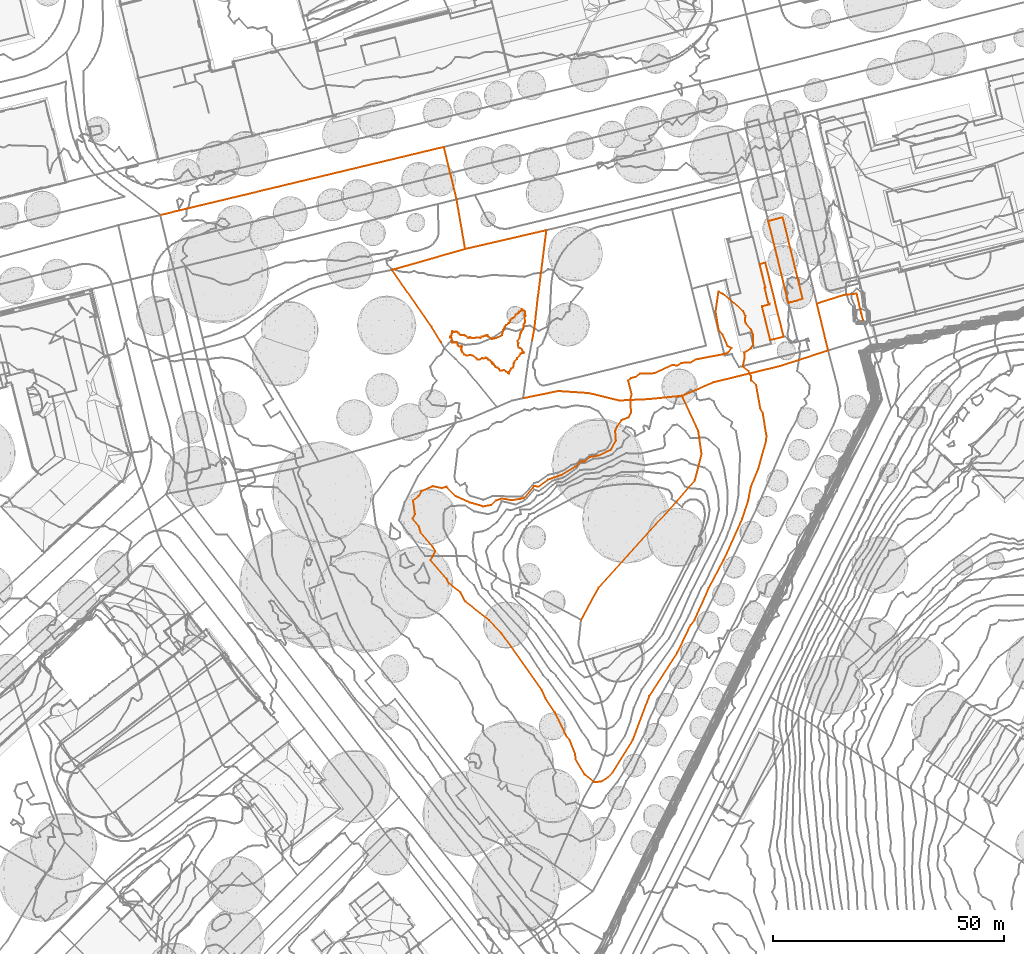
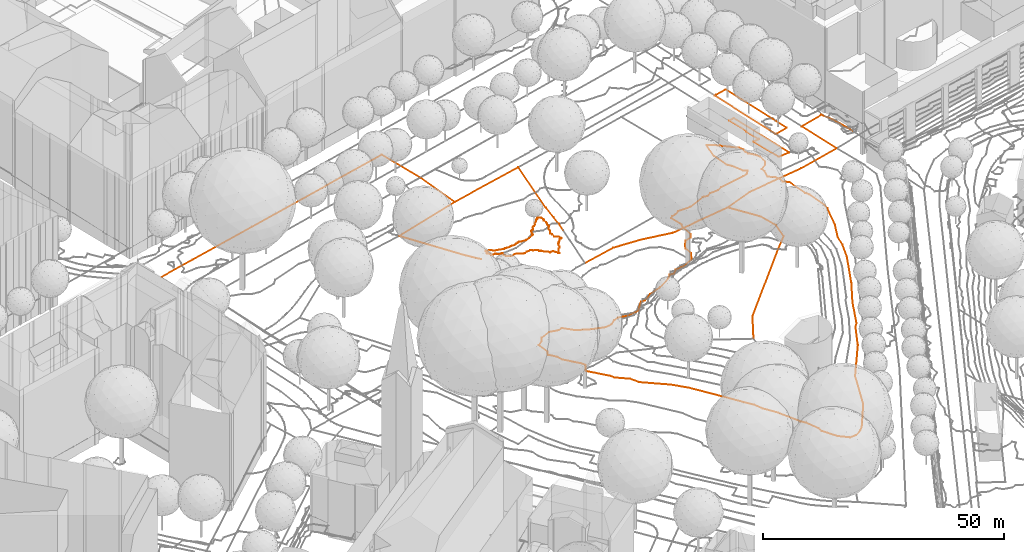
# Not in any storey, part 171 of 494: 16 proxies.
"""IFC2X3 model written with IfcOpenShell, lengths in metres."""

from ifc_helpers import new_model, entity, si_unit, frame, origin_with_axes, place, context, subcontext, project, element, save


model = new_model("IFC2X3")

# Units and contexts
model_context = context("Model", 3, precision=1e-05, world=origin_with_axes())
body_context = subcontext(model_context, "Body", "Model", "MODEL_VIEW")
ifc_project = project(units=[si_unit("AREAUNIT", "SQUARE_METRE"), si_unit("LENGTHUNIT", "METRE")], contexts=[model_context])

# Proxies
proxy_1_placement = place(None, frame((271.7527320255, 302.843733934, 541.668), z_axis=(0.0, 0.0, 1.0), x_axis=(1.0, 0.0, 0.0)))
element("IfcBuildingElementProxy", 1, at=proxy_1_placement, Name="Road 13", ObjectType="NOTDEFINED", context=body_context, shape_type="GeometricCurveSet", body=[
    entity("IfcGeometricCurveSet", [entity("IfcPolyline", [entity("IfcCartesianPoint", [0.0, 0.0, 0.0]), entity("IfcCartesianPoint", [6.9030000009, 2.9369999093, -0.275]), entity("IfcCartesianPoint", [21.2930000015, 6.4609997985, -1.472]), entity("IfcCartesianPoint", [31.7190000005, 9.8379996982, -2.107])])]),
])
proxy_2_placement = place(None, frame((301.0267320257, 322.8507333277, 539.803), z_axis=(0.0, 0.0, 1.0), x_axis=(1.0, 0.0, 0.0)))
element("IfcBuildingElementProxy", 2, at=proxy_2_placement, Name="Road 17", ObjectType="NOTDEFINED", context=body_context, shape_type="GeometricCurveSet", body=[
    entity("IfcGeometricCurveSet", [entity("IfcPolyline", [entity("IfcCartesianPoint", [10.0540000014, -3.7009998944, -2.405]), entity("IfcCartesianPoint", [9.6550000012, -2.3239999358, -2.347]), entity("IfcCartesianPoint", [8.6359999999, 2.1639999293, -2.601]), entity("IfcCartesianPoint", [5.7419999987, 1.8489999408, -0.211]), entity("IfcCartesianPoint", [0.0, 0.0, 0.0])])]),
])
proxy_3_placement = place(None, frame((158.6437320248, 342.0537327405, 539.79), z_axis=(0.0, 0.0, 1.0), x_axis=(1.0, 0.0, 0.0)))
element("IfcBuildingElementProxy", 3, at=proxy_3_placement, Name="Road 29", ObjectType="NOTDEFINED", context=body_context, shape_type="GeometricCurveSet", body=[
    entity("IfcGeometricCurveSet", [entity("IfcPolyline", [entity("IfcCartesianPoint", [0.0, 0.0, 0.0]), entity("IfcCartesianPoint", [8.9480000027, 2.1499999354, 0.08]), entity("IfcCartesianPoint", [25.4400000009, 6.1129998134, 0.228]), entity("IfcCartesianPoint", [61.4940000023, 14.7779995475, 0.553])])]),
])
proxy_4_placement = place(None, frame((220.1377320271, 356.831732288, 540.343), z_axis=(0.0, 0.0, 1.0), x_axis=(1.0, 0.0, 0.0)))
element("IfcBuildingElementProxy", 4, at=proxy_4_placement, Name="Road 57", ObjectType="NOTDEFINED", context=body_context, shape_type="GeometricCurveSet", body=[
    entity("IfcGeometricCurveSet", [entity("IfcPolyline", [entity("IfcCartesianPoint", [4.6009999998, -22.1469993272, -0.143]), entity("IfcCartesianPoint", [2.7309999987, -11.3609996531, 0.079]), entity("IfcCartesianPoint", [0.0, 0.0, 0.0])])]),
])
proxy_5_placement = place(None, frame((208.903732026, 330.1567331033, 539.903), z_axis=(0.0, 0.0, 1.0), x_axis=(1.0, 0.0, 0.0)))
element("IfcBuildingElementProxy", 5, at=proxy_5_placement, Name="Road 60", ObjectType="NOTDEFINED", context=body_context, shape_type="GeometricCurveSet", body=[
    entity("IfcGeometricCurveSet", [entity("IfcPolyline", [entity("IfcCartesianPoint", [15.8350000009, 4.5279998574, 0.297]), entity("IfcCartesianPoint", [0.0, 0.0, 0.0])])]),
])
proxy_6_placement = place(None, frame((237.3027320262, 302.311733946, 540.016), z_axis=(0.0, 0.0, 1.0), x_axis=(1.0, 0.0, 0.0)))
element("IfcBuildingElementProxy", 6, at=proxy_6_placement, Name="Road 62", ObjectType="NOTDEFINED", context=body_context, shape_type="GeometricCurveSet", body=[
    entity("IfcGeometricCurveSet", [entity("IfcPolyline", [entity("IfcCartesianPoint", [0.0, 0.0, 0.0]), entity("IfcCartesianPoint", [7.5780000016, 1.5599999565, 0.229]), entity("IfcCartesianPoint", [14.1860000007, 1.1189999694, 0.295]), entity("IfcCartesianPoint", [20.7939999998, -0.4959999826, 0.655]), entity("IfcCartesianPoint", [27.1079999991, -0.2019999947, 1.307]), entity("IfcCartesianPoint", [34.4499999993, 0.531999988, 1.652])])]),
])
proxy_7_placement = place(None, frame((224.7387320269, 334.6847329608, 540.2), z_axis=(0.0, 0.0, 1.0), x_axis=(1.0, 0.0, 0.0)))
element("IfcBuildingElementProxy", 7, at=proxy_7_placement, Name="Road 64", ObjectType="NOTDEFINED", context=body_context, shape_type="GeometricCurveSet", body=[
    entity("IfcGeometricCurveSet", [entity("IfcPolyline", [entity("IfcCartesianPoint", [17.6229999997, 4.0849998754, 0.132]), entity("IfcCartesianPoint", [0.0, 0.0, 0.0])])]),
])
proxy_8_placement = place(None, frame((240.0457320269, 320.1217334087, 539.845), z_axis=(0.0, 0.0, 1.0), x_axis=(1.0, 0.0, 0.0)))
element("IfcBuildingElementProxy", 8, at=proxy_8_placement, Name="Road 65", ObjectType="NOTDEFINED", context=body_context, shape_type="GeometricCurveSet", body=[
    entity("IfcGeometricCurveSet", [entity("IfcPolyline", [entity("IfcCartesianPoint", [0.0, 0.0, 0.0]), entity("IfcCartesianPoint", [0.4299999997, 3.8679998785, -0.142]), entity("IfcCartesianPoint", [2.3159999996, 18.6479994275, 0.487])])]),
])
proxy_9_placement = place(None, frame((301.0267320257, 322.8507333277, 539.803), z_axis=(0.0, 0.0, 1.0), x_axis=(1.0, 0.0, 0.0)))
element("IfcBuildingElementProxy", 9, at=proxy_9_placement, Name="Road 77", ObjectType="NOTDEFINED", context=body_context, shape_type="GeometricCurveSet", body=[
    entity("IfcGeometricCurveSet", [entity("IfcPolyline", [entity("IfcCartesianPoint", [0.0, 0.0, 0.0]), entity("IfcCartesianPoint", [2.4450000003, -10.1689996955, -0.242])])]),
])
proxy_10_placement = place(None, frame((208.903732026, 330.1567331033, 539.903), z_axis=(0.0, 0.0, 1.0), x_axis=(1.0, 0.0, 0.0)))
element("IfcBuildingElementProxy", 10, at=proxy_10_placement, Name="Road 101", ObjectType="NOTDEFINED", context=body_context, shape_type="GeometricCurveSet", body=[
    entity("IfcGeometricCurveSet", [entity("IfcPolyline", [entity("IfcCartesianPoint", [0.0, 0.0, 0.0]), entity("IfcCartesianPoint", [8.5170000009, -12.3349996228, -0.381]), entity("IfcCartesianPoint", [10.5700000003, -15.6589995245, -0.082])])]),
])
proxy_11_placement = place(None, frame((249.8727320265, 254.238735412, 545.582), z_axis=(0.0, 0.0, 1.0), x_axis=(1.0, 0.0, 0.0)))
element("IfcBuildingElementProxy", 11, at=proxy_11_placement, Name="Road 105", ObjectType="NOTDEFINED", context=body_context, shape_type="GeometricCurveSet", body=[
    entity("IfcGeometricCurveSet", [entity("IfcPolyline", [entity("IfcCartesianPoint", [0.0, 0.0, 0.0]), entity("IfcCartesianPoint", [3.8189999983, 7.0479997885, 0.132]), entity("IfcCartesianPoint", [20.7049999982, 25.6969992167, -0.144]), entity("IfcCartesianPoint", [24.6699999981, 30.2499990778, -1.047]), entity("IfcCartesianPoint", [26.1389999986, 35.9769989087, -2.265]), entity("IfcCartesianPoint", [25.4050000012, 41.1159987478, -2.9]), entity("IfcCartesianPoint", [21.879999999, 48.604998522, -3.914])])]),
])
proxy_12_placement = place(None, frame((239.2547320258, 314.7887335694, 540.096), z_axis=(0.0, 0.0, 1.0), x_axis=(1.0, 0.0, 0.0)))
element("IfcBuildingElementProxy", 12, at=proxy_12_placement, Name="Road 140", ObjectType="NOTDEFINED", context=body_context, shape_type="GeometricCurveSet", body=[
    entity("IfcGeometricCurveSet", [entity("IfcPolyline", [entity("IfcCartesianPoint", [0.0, 0.0, 0.0]), entity("IfcCartesianPoint", [0.4869999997, 2.5929999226, -0.151]), entity("IfcCartesianPoint", [0.7910000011, 5.3329998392, -0.251])])]),
])
proxy_13_placement = place(None, frame((221.4727320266, 315.5197160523, 539.9451337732), z_axis=(0.0, 0.0, 1.0), x_axis=(1.0, 0.0, 0.0)))
element("IfcBuildingElementProxy", 13, at=proxy_13_placement, Name="Roads Outline 65", ObjectType="NOTDEFINED", context=body_context, shape_type="GeometricCurveSet", body=[
    entity("IfcGeometricCurveSet", [entity("IfcPolyline", [entity("IfcCartesianPoint", [0.0, 0.0, 0.0]), entity("IfcCartesianPoint", [0.034, 0.1970000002, -0.032868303]), entity("IfcCartesianPoint", [0.2380000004, 0.2820000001, -0.0645356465]), entity("IfcCartesianPoint", [0.3230000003, 0.537, -0.1180079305]), entity("IfcCartesianPoint", [0.3740000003, 0.757, -0.1636740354]), entity("IfcCartesianPoint", [0.4590000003, 1.148, -0.2474366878]), entity("IfcCartesianPoint", [0.3910000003, 1.267, -0.255806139]), entity("IfcCartesianPoint", [0.5430000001, 1.334, -0.2913111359]), entity("IfcCartesianPoint", [0.747, 1.165, -0.2910893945]), entity("IfcCartesianPoint", [1.2350000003, 1.2180000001, -0.3659965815]), entity("IfcCartesianPoint", [1.358, 1.2320000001, -0.3843086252]), entity("IfcCartesianPoint", [1.5950000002, 1.1300000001, -0.4012720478]), entity("IfcCartesianPoint", [1.9010000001, 0.7820000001, -0.3715563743]), entity("IfcCartesianPoint", [2.3080000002, 0.544, -0.3727286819]), entity("IfcCartesianPoint", [2.8680000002, 0.5430000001, -0.4157295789]), entity("IfcCartesianPoint", [3.2749999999, 0.4240000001, -0.379114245]), entity("IfcCartesianPoint", [3.801, -0.068, -0.2208087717]), entity("IfcCartesianPoint", [4.0380000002, -0.1869999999, -0.1619115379]), entity("IfcCartesianPoint", [4.1570000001, -0.0009999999, -0.2052259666]), entity("IfcCartesianPoint", [4.3100000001, 0.0330000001, -0.1991757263]), entity("IfcCartesianPoint", [4.4790000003, -0.0859999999, -0.148985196]), entity("IfcCartesianPoint", [4.7170000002, -0.1709999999, -0.1047813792]), entity("IfcCartesianPoint", [5.3110000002, -0.1029999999, -0.1232165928]), entity("IfcCartesianPoint", [5.6329999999, -0.0009999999, -0.1478464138]), entity("IfcCartesianPoint", [5.9890000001, -0.0019999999, -0.1287256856]), entity("IfcCartesianPoint", [6.5660000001, -0.1379999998, -0.0546973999]), entity("IfcCartesianPoint", [6.872, 0.1170000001, -0.0972614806]), entity("IfcCartesianPoint", [7.0920000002, 0.1330000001, -0.0808258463]), entity("IfcCartesianPoint", [7.466, 0.3030000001, -0.1070623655]), entity("IfcCartesianPoint", [7.5560000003, 0.3930000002, -0.1312746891]), entity("IfcCartesianPoint", [7.7600000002, 0.3830000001, -0.1030834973]), entity("IfcCartesianPoint", [7.9939999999, 0.4940000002, -0.1030735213]), entity("IfcCartesianPoint", [8.1060000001, 0.4430000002, -0.0647691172]), entity("IfcCartesianPoint", [8.1570000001, 0.321, -0.0104298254]), entity("IfcCartesianPoint", [8.2790000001, 0.1680000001, 0.0685322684]), entity("IfcCartesianPoint", [8.8800000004, -0.2799999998, 0.3100159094]), entity("IfcCartesianPoint", [9.1150000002, -0.352, 0.3639315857]), entity("IfcCartesianPoint", [9.3280000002, -0.311, 0.3900332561]), entity("IfcCartesianPoint", [9.9790000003, -0.108, 0.4792357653]), entity("IfcCartesianPoint", [11.3130000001, 0.4720000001, 0.5130965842]), entity("IfcCartesianPoint", [11.3130000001, 0.594, 0.4791731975]), entity("IfcCartesianPoint", [11.3430000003, 0.9200000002, 0.3918183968]), entity("IfcCartesianPoint", [11.4350000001, 1.1540000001, 0.3403779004]), entity("IfcCartesianPoint", [11.5270000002, 1.5720000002, 0.2519339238]), entity("IfcCartesianPoint", [11.71, 1.8260000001, 0.2290435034]), entity("IfcCartesianPoint", [11.8420000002, 2.1780000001, 0.1361270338]), entity("IfcCartesianPoint", [11.8829999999, 2.361, 0.0633937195]), entity("IfcCartesianPoint", [12.1680000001, 2.6160000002, -0.0603835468]), entity("IfcCartesianPoint", [12.5350000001, 3.013, -0.2530746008]), entity("IfcCartesianPoint", [12.7690000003, 3.084, -0.2956663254]), entity("IfcCartesianPoint", [12.9720000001, 3.3080000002, -0.3198870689]), entity("IfcCartesianPoint", [13.085, 3.7350000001, -0.3456882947]), entity("IfcCartesianPoint", [13.3080000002, 4.0310000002, -0.3444187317]), entity("IfcCartesianPoint", [13.6550000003, 4.1530000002, -0.3113091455]), entity("IfcCartesianPoint", [13.98, 4.3770000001, -0.2647283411]), entity("IfcCartesianPoint", [14.2550000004, 4.9370000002, -0.2264956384]), entity("IfcCartesianPoint", [14.673, 5.1400000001, -0.1753261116]), entity("IfcCartesianPoint", [14.8149999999, 5.3130000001, -0.1567959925]), entity("IfcCartesianPoint", [14.9960000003, 5.534, -0.1311807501]), entity("IfcCartesianPoint", [15.0220000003, 5.581, -0.1267432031]), entity("IfcCartesianPoint", [15.0390000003, 5.588, -0.1246061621]), entity("IfcCartesianPoint", [15.1000000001, 5.6130000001, -0.116869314]), entity("IfcCartesianPoint", [15.4870000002, 5.7710000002, -0.0651701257]), entity("IfcCartesianPoint", [15.4569999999, 5.8830000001, -0.0631470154]), entity("IfcCartesianPoint", [15.4870000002, 6.1170000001, -0.0475360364]), entity("IfcCartesianPoint", [15.5890000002, 6.0560000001, -0.0374588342]), entity("IfcCartesianPoint", [15.7560000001, 5.868, -0.0348617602]), entity("IfcCartesianPoint", [16.037, 5.7660000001, -0.0456951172]), entity("IfcCartesianPoint", [16.2200000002, 5.6330000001, -0.0522447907]), entity("IfcCartesianPoint", [16.2200000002, 5.409, -0.0576143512]), entity("IfcCartesianPoint", [16.3020000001, 5.0720000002, -0.0593004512]), entity("IfcCartesianPoint", [16.3630000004, 4.7560000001, -0.0485248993]), entity("IfcCartesianPoint", [16.253, 4.6360000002, -0.0453179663]), entity("IfcCartesianPoint", [16.139, 4.5120000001, -0.0409356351]), entity("IfcCartesianPoint", [16.25, 3.6660000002, 0.0045509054]), entity("IfcCartesianPoint", [16.2200000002, 3.3460000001, 0.0263024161]), entity("IfcCartesianPoint", [16.199, 3.132, 0.0409352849]), entity("IfcCartesianPoint", [15.9550000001, 2.7960000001, 0.0661226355]), entity("IfcCartesianPoint", [16.0060000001, 2.2960000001, 0.1080188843]), entity("IfcCartesianPoint", [15.9920000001, 2.1200000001, 0.1243075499]), entity("IfcCartesianPoint", [15.9850000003, 2.0320000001, 0.1375517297]), entity("IfcCartesianPoint", [15.4360000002, 1.1310000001, 0.2780235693]), entity("IfcCartesianPoint", [15.395, 1.0650000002, 0.282978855]), entity("IfcCartesianPoint", [15.2420000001, 0.953, 0.2893640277]), entity("IfcCartesianPoint", [15.1810000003, 0.3930000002, 0.3507606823]), entity("IfcCartesianPoint", [15.0649999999, -0.0089999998, 0.3844598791]), entity("IfcCartesianPoint", [15.0290000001, -0.1359999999, 0.3901935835]), entity("IfcCartesianPoint", [14.6010000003, -0.8439999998, 0.4800365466]), entity("IfcCartesianPoint", [14.8770000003, -1.2609999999, 0.4577541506]), entity("IfcCartesianPoint", [14.7650000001, -1.3319999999, 0.4798780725]), entity("IfcCartesianPoint", [14.8160000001, -2.2279999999, 0.4669274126]), entity("IfcCartesianPoint", [15.1830000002, -2.3499999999, 0.4055788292]), entity("IfcCartesianPoint", [15.6310000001, -2.645, 0.3423323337]), entity("IfcCartesianPoint", [15.7430000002, -2.9399999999, 0.3348084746]), entity("IfcCartesianPoint", [16.0079999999, -3.2859999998, 0.3362841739]), entity("IfcCartesianPoint", [15.824, -3.3979999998, 0.3331442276]), entity("IfcCartesianPoint", [15.6410000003, -3.419, 0.3382346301]), entity("IfcCartesianPoint", [15.3149999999, -3.561, 0.3762349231]), entity("IfcCartesianPoint", [15.0419999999, -3.9339999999, 0.4194563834]), entity("IfcCartesianPoint", [14.4909999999, -4.5109999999, 0.5651845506]), entity("IfcCartesianPoint", [14.497, -4.6819999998, 0.5749290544]), entity("IfcCartesianPoint", [13.9470000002, -5.2309999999, 0.7326937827]), entity("IfcCartesianPoint", [13.8620000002, -5.5799999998, 0.7676782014]), entity("IfcCartesianPoint", [13.7760000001, -5.7379999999, 0.7969798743]), entity("IfcCartesianPoint", [13.807, -6.2209999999, 0.7255946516]), entity("IfcCartesianPoint", [13.6540000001, -6.541, 0.6988296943]), entity("IfcCartesianPoint", [13.2579999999, -6.7649999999, 0.6825437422]), entity("IfcCartesianPoint", [13.0130000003, -7.2379999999, 0.5730481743]), entity("IfcCartesianPoint", [12.7960000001, -7.4939999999, 0.517055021]), entity("IfcCartesianPoint", [12.8149999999, -7.831, 0.4238744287]), entity("IfcCartesianPoint", [12.5390000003, -7.76, 0.4717449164]), entity("IfcCartesianPoint", [12.1490000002, -7.4039999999, 0.6355796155]), entity("IfcCartesianPoint", [11.6740000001, -7.115, 0.8135387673]), entity("IfcCartesianPoint", [11.3000000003, -7.149, 0.836870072]), entity("IfcCartesianPoint", [10.8760000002, -7.2509999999, 0.855674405]), entity("IfcCartesianPoint", [10.6040000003, -6.8609999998, 0.9436707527]), entity("IfcCartesianPoint", [10.2480000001, -6.5899999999, 0.9341286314]), entity("IfcCartesianPoint", [9.8910000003, -6.4709999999, 0.9284314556]), entity("IfcCartesianPoint", [9.7560000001, -6.183, 0.9204479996]), entity("IfcCartesianPoint", [9.5690000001, -5.9109999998, 0.9130241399]), entity("IfcCartesianPoint", [9.3480000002, -5.8439999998, 0.9102385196]), entity("IfcCartesianPoint", [9.1440000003, -5.6569999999, 0.8955964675]), entity("IfcCartesianPoint", [9.1950000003, -5.4199999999, 0.8781022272]), entity("IfcCartesianPoint", [8.9240000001, -5.25, 0.8662569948]), entity("IfcCartesianPoint", [8.5160000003, -4.9779999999, 0.8487993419]), entity("IfcCartesianPoint", [8.1940000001, -4.8419999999, 0.8348933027]), entity("IfcCartesianPoint", [8.1430000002, -4.5789999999, 0.8100408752]), entity("IfcCartesianPoint", [7.736, -4.426, 0.7922193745]), entity("IfcCartesianPoint", [7.2949999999, -4.6129999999, 0.8100888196]), entity("IfcCartesianPoint", [6.8880000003, -4.4939999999, 0.799089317]), entity("IfcCartesianPoint", [6.3620000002, -4.7649999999, 0.8215538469]), entity("IfcCartesianPoint", [5.9380000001, -4.781, 0.8177898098]), entity("IfcCartesianPoint", [5.7000000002, -4.5599999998, 0.7970141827]), entity("IfcCartesianPoint", [4.8859999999, -3.9479999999, 0.6999935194]), entity("IfcCartesianPoint", [4.3260000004, -3.8459999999, 0.6413580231]), entity("IfcCartesianPoint", [3.5789999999, -3.9469999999, 0.52139075]), entity("IfcCartesianPoint", [3.0870000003, -3.7259999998, 0.4582847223]), entity("IfcCartesianPoint", [2.6770000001, -3.338, 0.4396057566]), entity("IfcCartesianPoint", [2.6130000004, -3.132, 0.4560702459]), entity("IfcCartesianPoint", [2.4510000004, -2.7799999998, 0.4453376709]), entity("IfcCartesianPoint", [2.409, -2.6899999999, 0.4232399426]), entity("IfcCartesianPoint", [2.477, -2.2319999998, 0.3595035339]), entity("IfcCartesianPoint", [2.6470000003, -2.0279999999, 0.3299549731]), entity("IfcCartesianPoint", [2.4939999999, -1.858, 0.2970497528]), entity("IfcCartesianPoint", [2.2560000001, -1.96, 0.312134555]), entity("IfcCartesianPoint", [2.0360000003, -2.0109999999, 0.3131584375]), entity("IfcCartesianPoint", [1.6800000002, -1.8069999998, 0.2961074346]), entity("IfcCartesianPoint", [1.5950000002, -1.5179999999, 0.2172752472]), entity("IfcCartesianPoint", [1.5440000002, -1.179, 0.1313771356]), entity("IfcCartesianPoint", [1.3570000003, -1.0599999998, 0.1155818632]), entity("IfcCartesianPoint", [0.798, -1.1609999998, 0.1732617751]), entity("IfcCartesianPoint", [0.3900000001, -1.1779999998, 0.1654008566]), entity("IfcCartesianPoint", [0.3900000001, -1.095, 0.1574758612]), entity("IfcCartesianPoint", [0.3900000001, -1.0079999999, 0.1491689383]), entity("IfcCartesianPoint", [0.4240000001, -0.5839999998, 0.0839703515]), entity("IfcCartesianPoint", [0.3060000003, -0.176, 0.0117546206]), entity("IfcCartesianPoint", [0.0, 0.0, 0.0])])]),
])
proxy_14_placement = place(None, frame((288.5997320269, 331.4027160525, 540.4457476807), z_axis=(0.0, 0.0, 1.0), x_axis=(1.0, 0.0, 0.0)))
element("IfcBuildingElementProxy", 14, at=proxy_14_placement, Name="Roads Outline 66", ObjectType="NOTDEFINED", context=body_context, shape_type="GeometricCurveSet", body=[
    entity("IfcGeometricCurveSet", [entity("IfcPolyline", [entity("IfcCartesianPoint", [0.0, 0.0, 0.0]), entity("IfcCartesianPoint", [1.2619999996, 0.311, -0.0186984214]), entity("IfcCartesianPoint", [5.2139999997, -15.7450000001, -0.3632645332]), entity("IfcCartesianPoint", [2.3019999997, -16.4680000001, 0.0109983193]), entity("IfcCartesianPoint", [0.5, -9.145, 0.0380046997]), entity("IfcCartesianPoint", [2.1509999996, -8.7390000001, -0.1633429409]), entity("IfcCartesianPoint", [2.1129999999, -8.584, -0.1570562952]), entity("IfcCartesianPoint", [1.9479999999, -8.6240000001, -0.1391603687]), entity("IfcCartesianPoint", [1.0929999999, -5.1470000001, -0.091923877]), entity("IfcCartesianPoint", [1.2569999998, -5.1070000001, -0.1021699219]), entity("IfcCartesianPoint", [0.0, 0.0, 0.0])])]),
])
proxy_15_placement = place(None, frame((290.4867320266, 340.7827160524, 540.4100990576), z_axis=(0.0, 0.0, 1.0), x_axis=(1.0, 0.0, 0.0)))
element("IfcBuildingElementProxy", 15, at=proxy_15_placement, Name="Roads Outline 77", ObjectType="NOTDEFINED", context=body_context, shape_type="GeometricCurveSet", body=[
    entity("IfcGeometricCurveSet", [entity("IfcPolyline", [entity("IfcCartesianPoint", [0.0, 0.0, 0.0]), entity("IfcCartesianPoint", [0.4790000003, 0.118, -0.0092788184]), entity("IfcCartesianPoint", [3.1200000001, 0.7680000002, -0.0011076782]), entity("IfcCartesianPoint", [7.4750000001, -16.9039999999, -0.5202411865]), entity("IfcCartesianPoint", [4.8000000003, -17.655, -0.5288057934]), entity("IfcCartesianPoint", [4.3710000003, -17.7749999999, -0.4822192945]), entity("IfcCartesianPoint", [0.0, 0.0, 0.0])])]),
])
proxy_16_placement = place(None, frame((213.3358150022, 276.1707160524, 541.0), z_axis=(0.0, 0.0, 1.0), x_axis=(1.0, 0.0, 0.0)))
element("IfcBuildingElementProxy", 16, at=proxy_16_placement, Name="Contour Line 541.0 m", ObjectType="NOTDEFINED", context=body_context, shape_type="GeometricCurveSet", body=[
    entity("IfcGeometricCurveSet", [entity("IfcPolyline", [entity("IfcCartesianPoint", [40.8499908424, -57.0, 0.0]), entity("IfcCartesianPoint", [39.3419170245, -57.120443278, 0.0]), entity("IfcCartesianPoint", [37.3419170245, -55.4478935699, 0.0]), entity("IfcCartesianPoint", [35.3419170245, -52.1289571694, 0.0]), entity("IfcCartesianPoint", [35.2757031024, -51.0, 0.0]), entity("IfcCartesianPoint", [34.0927132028, -48.0, 0.0]), entity("IfcCartesianPoint", [33.325232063, -47.0, 0.0]), entity("IfcCartesianPoint", [30.8846400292, -42.0, 0.0]), entity("IfcCartesianPoint", [28.8460785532, -39.0, 0.0]), entity("IfcCartesianPoint", [27.9934235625, -37.0, 0.0]), entity("IfcCartesianPoint", [19.3419170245, -24.852967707, 0.0]), entity("IfcCartesianPoint", [16.6168691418, -22.0, 0.0]), entity("IfcCartesianPoint", [11.4560665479, -18.0, 0.0]), entity("IfcCartesianPoint", [10.4141083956, -16.0, 0.0]), entity("IfcCartesianPoint", [7.8797140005, -14.0, 0.0]), entity("IfcCartesianPoint", [7.3419170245, -12.93687231, 0.0]), entity("IfcCartesianPoint", [3.8810185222, -9.0, 0.0]), entity("IfcCartesianPoint", [4.9204837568, -7.0, 0.0]), entity("IfcCartesianPoint", [4.3641480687, -6.0, 0.0]), entity("IfcCartesianPoint", [1.7589156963, -3.0, 0.0]), entity("IfcCartesianPoint", [1.3419170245, -1.6004962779, 0.0]), entity("IfcCartesianPoint", [0.0, 0.0, 0.0]), entity("IfcCartesianPoint", [0.5062149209, 1.0, 0.0]), entity("IfcCartesianPoint", [0.1223091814, 4.0, 0.0]), entity("IfcCartesianPoint", [1.3419170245, 4.9446883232, 0.0]), entity("IfcCartesianPoint", [1.9587603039, 6.0, 0.0]), entity("IfcCartesianPoint", [4.3419170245, 7.0641504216, 0.0]), entity("IfcCartesianPoint", [6.3419170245, 6.6253265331, 0.0]), entity("IfcCartesianPoint", [7.3419170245, 6.9625085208, 0.0]), entity("IfcCartesianPoint", [9.3419170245, 4.9039177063, 0.0]), entity("IfcCartesianPoint", [12.3419170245, 3.5551418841, 0.0]), entity("IfcCartesianPoint", [15.3419170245, 2.682076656, 0.0]), entity("IfcCartesianPoint", [17.0066841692, 3.0, 0.0]), entity("IfcCartesianPoint", [18.1144706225, 4.0, 0.0]), entity("IfcCartesianPoint", [19.3419170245, 4.404321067, 0.0]), entity("IfcCartesianPoint", [21.3419170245, 4.0214467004, 0.0]), entity("IfcCartesianPoint", [23.3419170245, 4.3121524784, 0.0]), entity("IfcCartesianPoint", [24.3419170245, 4.5995408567, 0.0]), entity("IfcCartesianPoint", [26.3419170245, 7.0730857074, 0.0]), entity("IfcCartesianPoint", [27.3419170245, 6.9854046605, 0.0]), entity("IfcCartesianPoint", [29.3419170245, 8.4904125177, 0.0]), entity("IfcCartesianPoint", [32.3419170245, 9.5328644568, 0.0]), entity("IfcCartesianPoint", [35.3419170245, 11.3793152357, 0.0]), entity("IfcCartesianPoint", [36.3419170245, 12.4353259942, 0.0]), entity("IfcCartesianPoint", [37.3419170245, 12.4357254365, 0.0]), entity("IfcCartesianPoint", [38.3419170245, 13.4019699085, 0.0]), entity("IfcCartesianPoint", [40.3419170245, 13.7070056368, 0.0]), entity("IfcCartesianPoint", [43.0331701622, 15.0, 0.0]), entity("IfcCartesianPoint", [44.0821925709, 17.0, 0.0]), entity("IfcCartesianPoint", [43.9453804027, 19.0, 0.0]), entity("IfcCartesianPoint", [44.3419170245, 20.0501603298, 0.0]), entity("IfcCartesianPoint", [45.3419170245, 21.428918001, 0.0]), entity("IfcCartesianPoint", [46.814811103, 22.0, 0.0]), entity("IfcCartesianPoint", [47.3827098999, 23.0, 0.0]), entity("IfcCartesianPoint", [47.2348506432, 26.0, 0.0]), entity("IfcCartesianPoint", [47.522361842, 27.0, 0.0]), entity("IfcCartesianPoint", [46.7865760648, 30.0, 0.0]), entity("IfcCartesianPoint", [47.3419170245, 30.5203953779, 0.0]), entity("IfcCartesianPoint", [48.3419170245, 30.7648689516, 0.0]), entity("IfcCartesianPoint", [49.3419170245, 31.4886838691, 0.0]), entity("IfcCartesianPoint", [52.3419170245, 31.5553369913, 0.0]), entity("IfcCartesianPoint", [56.3419170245, 33.3872661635, 0.0]), entity("IfcCartesianPoint", [57.3419170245, 33.1909160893, 0.0]), entity("IfcCartesianPoint", [58.3419170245, 33.8100158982, 0.0]), entity("IfcCartesianPoint", [60.3419170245, 33.9121321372, 0.0]), entity("IfcCartesianPoint", [61.3419170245, 34.5476051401, 0.0]), entity("IfcCartesianPoint", [67.3419170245, 35.6704219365, 0.0]), entity("IfcCartesianPoint", [68.3695522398, 36.0, 0.0]), entity("IfcCartesianPoint", [69.1359875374, 37.0, 0.0]), entity("IfcCartesianPoint", [68.3419170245, 37.437914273, 0.0]), entity("IfcCartesianPoint", [67.2175439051, 40.0, 0.0]), entity("IfcCartesianPoint", [66.3839764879, 41.0, 0.0]), entity("IfcCartesianPoint", [65.7075596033, 45.0, 0.0]), entity("IfcCartesianPoint", [66.3419170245, 49.2367458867, 0.0]), entity("IfcCartesianPoint", [67.3419170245, 48.7508361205, 0.0]), entity("IfcCartesianPoint", [71.7241262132, 45.0, 0.0]), entity("IfcCartesianPoint", [72.1937688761, 44.0, 0.0]), entity("IfcCartesianPoint", [72.0874872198, 43.0, 0.0]), entity("IfcCartesianPoint", [72.3419170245, 42.2964824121, 0.0]), entity("IfcCartesianPoint", [73.4292261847, 41.0, 0.0]), entity("IfcCartesianPoint", [73.8537634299, 40.0, 0.0]), entity("IfcCartesianPoint", [73.9033205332, 38.0, 0.0]), entity("IfcCartesianPoint", [73.376070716, 37.0, 0.0]), entity("IfcCartesianPoint", [71.9506126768, 36.0, 0.0]), entity("IfcCartesianPoint", [72.0329547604, 35.0, 0.0]), entity("IfcCartesianPoint", [71.6234387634, 33.0, 0.0]), entity("IfcCartesianPoint", [72.8728448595, 32.0, 0.0]), entity("IfcCartesianPoint", [73.4135094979, 31.0, 0.0]), entity("IfcCartesianPoint", [73.424291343, 30.0, 0.0]), entity("IfcCartesianPoint", [74.5239071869, 29.0, 0.0]), entity("IfcCartesianPoint", [75.4068622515, 24.0, 0.0]), entity("IfcCartesianPoint", [75.9516931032, 23.0, 0.0]), entity("IfcCartesianPoint", [76.7504621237, 18.0, 0.0]), entity("IfcCartesianPoint", [76.688899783, 17.0, 0.0]), entity("IfcCartesianPoint", [75.0189485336, 11.0, 0.0]), entity("IfcCartesianPoint", [73.374050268, 7.0, 0.0]), entity("IfcCartesianPoint", [72.7790490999, 4.0, 0.0]), entity("IfcCartesianPoint", [71.5159104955, 0.0, 0.0]), entity("IfcCartesianPoint", [67.4259861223, -9.0, 0.0]), entity("IfcCartesianPoint", [64.2198041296, -15.0, 0.0]), entity("IfcCartesianPoint", [61.141642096, -22.0, 0.0]), entity("IfcCartesianPoint", [60.3213375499, -23.0, 0.0]), entity("IfcCartesianPoint", [57.4195966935, -29.0, 0.0]), entity("IfcCartesianPoint", [51.3419170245, -38.4051540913, 0.0]), entity("IfcCartesianPoint", [47.7470692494, -48.0, 0.0]), entity("IfcCartesianPoint", [43.3419170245, -55.0240356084, 0.0]), entity("IfcCartesianPoint", [42.3419170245, -56.0875118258, 0.0]), entity("IfcCartesianPoint", [40.8499908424, -57.0, 0.0])])]),
])

save(model, "model.ifc")
